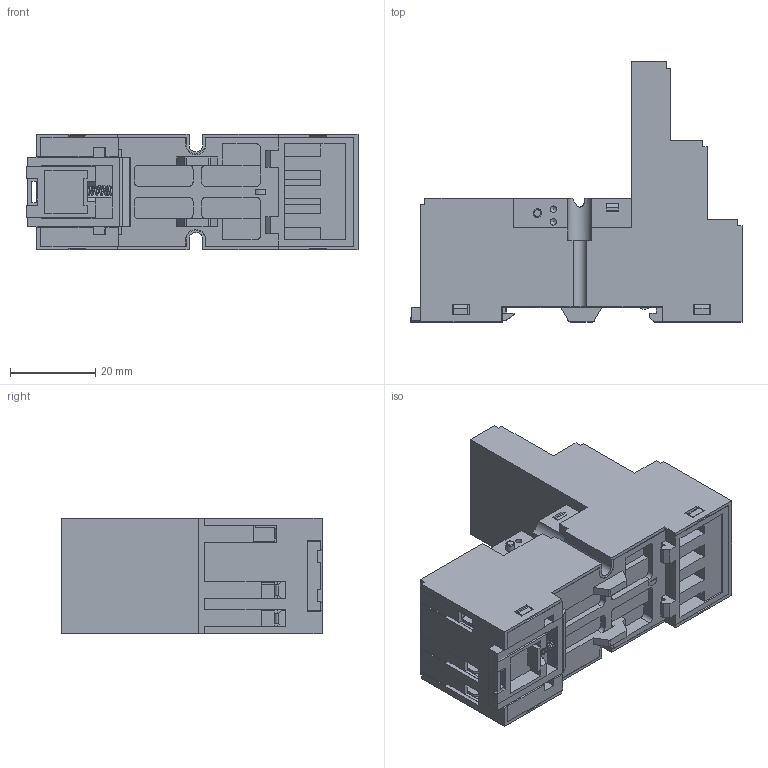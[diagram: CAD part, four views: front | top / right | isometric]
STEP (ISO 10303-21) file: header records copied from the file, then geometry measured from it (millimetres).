
FILE_DESCRIPTION(/* description */ (''),/* implementation_level */ '2;1');
FILE_NAME(/* name */ '18FF-4Z-C5_stp.stp',/* time_stamp */ '2018-12-29T11:26:25+08:00',/* author */ (''),/* organization */ (''),/* preprocessor_version */ 'ST-DEVELOPER v15',/* originating_system */ 'SIEMENS PLM Software NX 8.5',/* authorisation */ '');
FILE_SCHEMA (('CONFIG_CONTROL_DESIGN'));
Length unit declared in the file: millimetre
Products named in the file (8): Cover1812; Screw1810; Nut1811; Base4; Spring1808; SLIDE block1807; Cover_dwg 121122_MODEL; 18FF-4Z-C5_stp
Assembly tree (38 placements, depth 3):
  18FF-4Z-C5_stp
    Cover_dwg 121122_MODEL
      Cover1812
    SLIDE block1807
    Spring1808
    Base4
    Nut1811  x15
    Screw1810  x18
Bounding box: 78 x 61.1 x 27.25 mm (x, y, z)
Volume: 53364.5 mm3; surface area: 58688.4 mm2
Topology: 37 solids, 45 shells, 3510 faces, 9178 edges, 5857 vertices
Faces by surface type: plane 2699, cylinder 655, torus 46, cone 40, sphere 40, bspline 21, extrusion 9
Full cylindrical faces by diameter (mm): 1.5 x5, 2 x2, 2.2 x18, 2.4 x2, 2.459 x15, 2.6 x18, 2.9 x18, 3 x15, 3.1 x33, 3.9 x1, 4.5 x1, 4.8 x18, 5.3 x15
Entity records: 54264 total; most frequent: CARTESIAN_POINT 9674, ORIENTED_EDGE 9076, DIRECTION 8352, EDGE_CURVE 4538, VECTOR 4080, LINE 4071, VERTEX_POINT 3027, AXIS2_PLACEMENT_3D 2136
